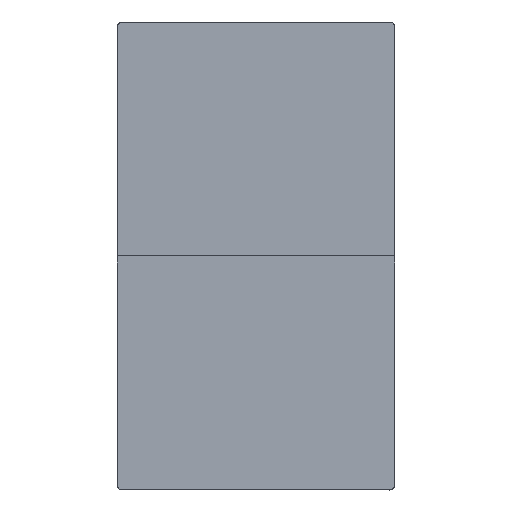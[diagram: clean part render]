
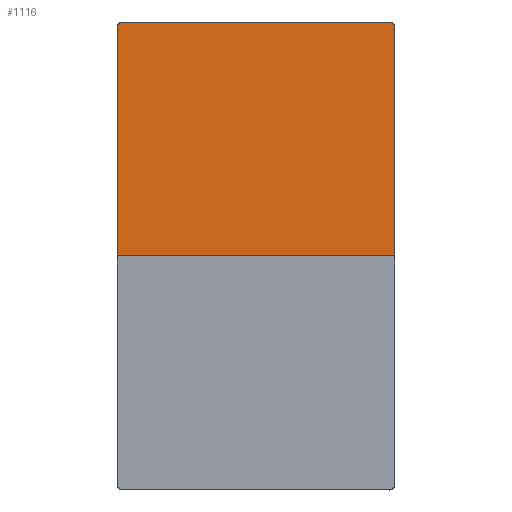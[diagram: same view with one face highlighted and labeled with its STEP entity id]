
A CAD part, top view. The second image highlights one B-rep face of the part: STEP entity #1116.
In plain terms, the highlighted planar face has unit normal (0, 0, 1).
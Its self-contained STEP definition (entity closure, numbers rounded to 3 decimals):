
#1116=ADVANCED_FACE('',(#2446),#20303,.T.);
#2446=FACE_OUTER_BOUND('',#3891,.T.);
#3891=EDGE_LOOP('',(#7441,#7442,#7443,#7444,#7445,#7446));
#7441=ORIENTED_EDGE('',*,*,#12411,.T.);
#7442=ORIENTED_EDGE('',*,*,#12414,.T.);
#7443=ORIENTED_EDGE('',*,*,#12415,.T.);
#7444=ORIENTED_EDGE('',*,*,#12401,.T.);
#7445=ORIENTED_EDGE('',*,*,#12405,.T.);
#7446=ORIENTED_EDGE('',*,*,#12408,.T.);
#12401=EDGE_CURVE('',#18200,#18199,#14801,.T.);
#12405=EDGE_CURVE('',#18199,#18202,#16300,.T.);
#12408=EDGE_CURVE('',#18202,#18204,#14803,.T.);
#12411=EDGE_CURVE('',#18204,#18206,#16304,.T.);
#12414=EDGE_CURVE('',#18206,#18208,#16307,.T.);
#12415=EDGE_CURVE('',#18208,#18200,#16308,.T.);
#14801=(
BOUNDED_CURVE()
B_SPLINE_CURVE(2,(#36523,#36524,#36525),.UNSPECIFIED.,.F.,.F.)
B_SPLINE_CURVE_WITH_KNOTS((3,3),(-28.274,0.),.UNSPECIFIED.)
CURVE()
GEOMETRIC_REPRESENTATION_ITEM()
RATIONAL_B_SPLINE_CURVE((1.,0.707,1.))
REPRESENTATION_ITEM('')
);
#14803=(
BOUNDED_CURVE()
B_SPLINE_CURVE(2,(#36539,#36540,#36541),.UNSPECIFIED.,.F.,.F.)
B_SPLINE_CURVE_WITH_KNOTS((3,3),(-28.039,0.),.UNSPECIFIED.)
CURVE()
GEOMETRIC_REPRESENTATION_ITEM()
RATIONAL_B_SPLINE_CURVE((1.,0.707,1.))
REPRESENTATION_ITEM('')
);
#16300=B_SPLINE_CURVE_WITH_KNOTS('',1,(#36532,#36533),.UNSPECIFIED.,.F.,
 .F.,(2,2),(-68.558,22.858),.UNSPECIFIED.);
#16304=B_SPLINE_CURVE_WITH_KNOTS('',1,(#36546,#36547),.UNSPECIFIED.,.F.,
 .F.,(2,2),(-58.215,20.),.UNSPECIFIED.);
#16307=B_SPLINE_CURVE_WITH_KNOTS('',1,(#36552,#36553),.UNSPECIFIED.,.F.,
 .F.,(2,2),(-71.25,23.75),.UNSPECIFIED.);
#16308=B_SPLINE_CURVE_WITH_KNOTS('',1,(#36554,#36555),.UNSPECIFIED.,.F.,
 .F.,(2,2),(-59.1,19.1),.UNSPECIFIED.);
#18199=VERTEX_POINT('',#35246);
#18200=VERTEX_POINT('',#35247);
#18202=VERTEX_POINT('',#35249);
#18204=VERTEX_POINT('',#35251);
#18206=VERTEX_POINT('',#35253);
#18208=VERTEX_POINT('',#35255);
#20303=PLANE('',#20903);
#20903=AXIS2_PLACEMENT_3D('',#34404,#21487,$);
#21487=DIRECTION('',(0.,0.,1.));
#34404=CARTESIAN_POINT('',(-9.1,385.54,18.498));
#35246=CARTESIAN_POINT('',(922.91,1185.55,18.498));
#35247=CARTESIAN_POINT('',(940.91,1167.55,18.498));
#35249=CARTESIAN_POINT('',(8.76,1185.55,18.498));
#35251=CARTESIAN_POINT('',(-9.09,1167.7,18.498));
#35253=CARTESIAN_POINT('',(-9.09,385.55,18.498));
#35255=CARTESIAN_POINT('',(940.91,385.55,18.498));
#36523=CARTESIAN_POINT('',(940.91,1167.55,18.498));
#36524=CARTESIAN_POINT('',(940.91,1185.55,18.498));
#36525=CARTESIAN_POINT('',(922.91,1185.55,18.498));
#36532=CARTESIAN_POINT('',(922.91,1185.55,18.498));
#36533=CARTESIAN_POINT('',(8.76,1185.55,18.498));
#36539=CARTESIAN_POINT('',(8.76,1185.55,18.498));
#36540=CARTESIAN_POINT('',(-9.09,1185.55,18.498));
#36541=CARTESIAN_POINT('',(-9.09,1167.7,18.498));
#36546=CARTESIAN_POINT('',(-9.09,1167.7,18.498));
#36547=CARTESIAN_POINT('',(-9.09,385.55,18.498));
#36552=CARTESIAN_POINT('',(-9.09,385.55,18.498));
#36553=CARTESIAN_POINT('',(940.91,385.55,18.498));
#36554=CARTESIAN_POINT('',(940.91,385.55,18.498));
#36555=CARTESIAN_POINT('',(940.91,1167.55,18.498));
